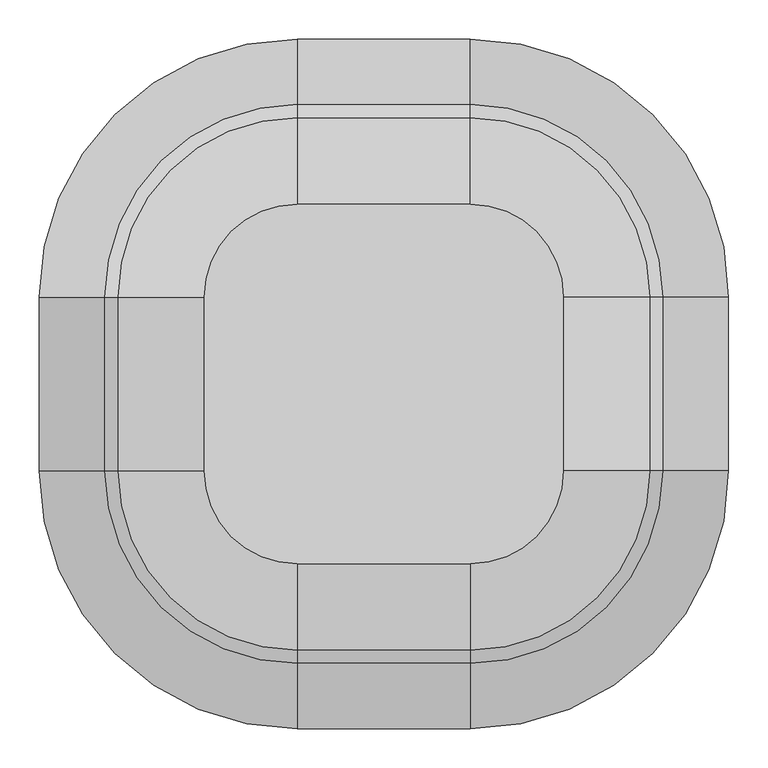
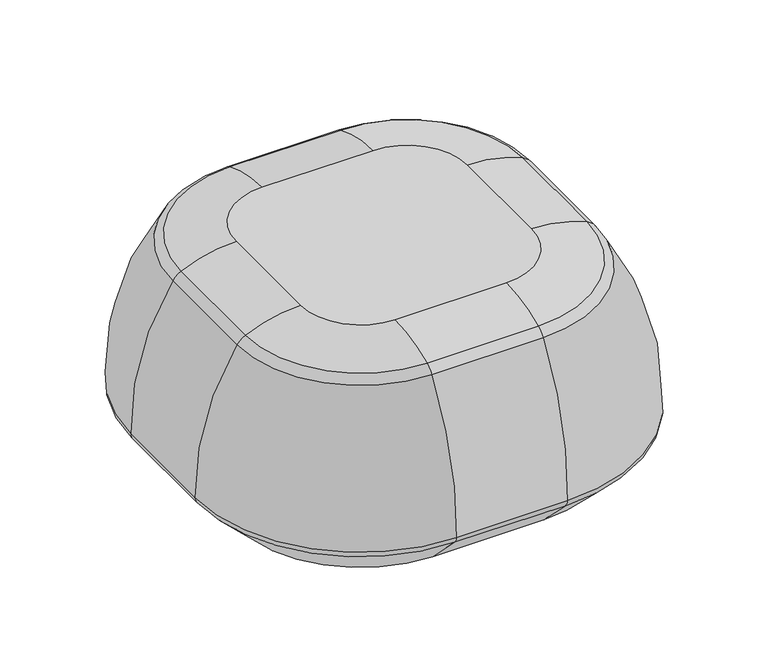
"""IFC4 building model written with IfcOpenShell, lengths in millimetres: furniture geometry, Pouf_Bensen_IlePouf_ILE002 : Pouf_Bensen_IlePouf_ILE002."""

from ifc_helpers import new_model, si_unit, point, frame, origin, place, context, project, spatial, polyline, circle_curve, ellipse_curve, trimmed, source, transform, mapped, element, save
from ifc_brep_helpers import plane_surface, cylinder_surface, revolved_surface, advanced_brep


def furniture_69604ef7(model_context):
    return source(origin(), model_context, "Body", "AdvancedBrep", [
        advanced_brep(
        [(-110.8980061, 229.8805898, 420.0), (-229.6492333, 111.1293625, 420.0), (-229.6492333, -111.1293625, 420.0), (-110.8980061, -229.8805898, 420.0), (110.8980061, -229.8805898, 420.0), (229.6492333, -111.1293625, 420.0), (229.6492333, 111.1293625, 420.0), (110.8980061, 229.8805898, 420.0), (-359.5151302, 111.1293625, 0.0), (-110.8980061, 359.7464867, 0.0), (110.8980061, 359.7464867, 0.0), (359.5151302, 111.1293625, 0.0), (359.5151302, -111.1293625, 0.0), (110.8980061, -359.7464867, 0.0), (-110.8980061, -359.7464867, 0.0), (-359.5151302, -111.1293625, 0.0), (-435.0511768, 111.1293625, 75.5360466), (-110.8980061, 435.2825333, 75.5360466), (-440.8980061, 111.1293625, 89.0138906), (-110.8980061, 441.1293625, 89.0138906), (-357.2647005, 111.1293625, 381.8574548), (-110.8980061, 357.4960569, 381.8574548), (-340.5275017, 111.1293625, 396.0506005), (-110.8980061, 340.7588582, 396.0506005), (-435.0511768, -111.1293625, 75.5360466), (-440.8980061, -111.1293625, 89.0138906), (-357.2647005, -111.1293625, 381.8574548), (-340.5275017, -111.1293625, 396.0506005), (-110.8980061, -435.2825333, 75.5360466), (-110.8980061, -441.1293625, 89.0138906), (-110.8980061, -357.4960569, 381.8574548), (-110.8980061, -340.7588582, 396.0506005), (110.8980061, -435.2825333, 75.5360466), (110.8980061, -441.1293625, 89.0138906), (110.8980061, -357.4960569, 381.8574548), (110.8980061, -340.7588582, 396.0506005), (435.0511768, -111.1293625, 75.5360466), (440.8980061, -111.1293625, 89.0138906), (357.2647005, -111.1293625, 381.8574548), (340.5275017, -111.1293625, 396.0506005), (435.0511768, 111.1293625, 75.5360466), (440.8980061, 111.1293625, 89.0138906), (357.2647005, 111.1293625, 381.8574548), (340.5275017, 111.1293625, 396.0506005), (110.8980061, 435.2825333, 75.5360466), (110.8980061, 441.1293625, 89.0138906), (110.8980061, 357.4960569, 381.8574548), (110.8980061, 340.7588582, 396.0506005)],
        [
            (0, 1, circle_curve(frame((-110.8980061, 111.1293625, 420.0), z_axis=(0.0, 0.0, 1.0), x_axis=(0.0, 1.0, 0.0)), 118.7512273)),
            (1, 2),
            (2, 3, circle_curve(frame((-110.8980061, -111.1293625, 420.0), z_axis=(0.0, 0.0, 1.0), x_axis=(-1.0, 0.0, 0.0)), 118.7512273)),
            (3, 4),
            (4, 5, circle_curve(frame((110.8980061, -111.1293625, 420.0), z_axis=(0.0, 0.0, 1.0), x_axis=(0.0, -1.0, 0.0)), 118.7512273)),
            (5, 6),
            (6, 7, circle_curve(frame((110.8980061, 111.1293625, 420.0), z_axis=(0.0, 0.0, 1.0), x_axis=(1.0, 0.0, 0.0)), 118.7512273)),
            (7, 0),
            (8, 9, circle_curve(frame((-110.8980061, 111.1293625, 0.0), z_axis=(0.0, 0.0, -1.0), x_axis=(0.0, 1.0, 0.0)), 248.6171241)),
            (9, 10),
            (10, 11, circle_curve(frame((110.8980061, 111.1293625, 0.0), z_axis=(0.0, 0.0, -1.0), x_axis=(1.0, 0.0, 0.0)), 248.6171241)),
            (11, 12),
            (12, 13, circle_curve(frame((110.8980061, -111.1293625, 0.0), z_axis=(0.0, 0.0, -1.0), x_axis=(0.0, -1.0, 0.0)), 248.6171241)),
            (13, 14),
            (14, 15, circle_curve(frame((-110.8980061, -111.1293625, 0.0), z_axis=(0.0, 0.0, -1.0), x_axis=(-1.0, 0.0, 0.0)), 248.6171241)),
            (15, 8),
            (16, 17, circle_curve(frame((-110.8980061, 111.1293625, 75.5360466), z_axis=(0.0, 0.0, -1.0), x_axis=(0.0, 1.0, 0.0)), 324.1531708)),
            (17, 9),
            (8, 16),
            (16, 18, circle_curve(frame((-420.9090412, 111.1293625, 89.6781823), z_axis=(0.0, 1.0, 0.0), x_axis=(1.0, 0.0, 0.0)), 20.0)),
            (18, 19, circle_curve(frame((-110.8980061, 111.1293625, 89.0138906), z_axis=(0.0, 0.0, -1.0), x_axis=(0.0, 1.0, 0.0)), 330.0)),
            (19, 17, circle_curve(frame((-110.8980061, 421.1403977, 89.6781823), z_axis=(-1.0, 0.0, 0.0), x_axis=(0.0, -1.0, 0.0)), 20.0)),
            (18, 20, circle_curve(frame((55.8166813, 111.1293625, 105.5211689), z_axis=(0.0, 1.0, 0.0), x_axis=(1.0, 0.0, 0.0)), 496.9889042)),
            (20, 21, circle_curve(frame((-110.8980061, 111.1293625, 381.8574548), z_axis=(0.0, 0.0, -1.0), x_axis=(0.0, 1.0, 0.0)), 246.3666944)),
            (21, 19, circle_curve(frame((-110.8980061, -55.5853248, 105.5211689), z_axis=(-1.0, 0.0, 0.0), x_axis=(0.0, -1.0, 0.0)), 496.9889042)),
            (20, 22, circle_curve(frame((-324.0179717, 111.1293625, 359.6166134), z_axis=(0.0, 1.0, 0.0), x_axis=(1.0, 0.0, 0.0)), 40.0)),
            (22, 23, circle_curve(frame((-110.8980061, 111.1293625, 396.0506005), z_axis=(0.0, 0.0, -1.0), x_axis=(0.0, 1.0, 0.0)), 229.6294956)),
            (23, 21, circle_curve(frame((-110.8980061, 324.2493282, 359.6166134), z_axis=(-1.0, 0.0, 0.0), x_axis=(0.0, -1.0, 0.0)), 40.0)),
            (22, 1, circle_curve(frame((-229.6492333, 111.1293625, 151.3593575), z_axis=(0.0, 1.0, 0.0), x_axis=(1.0, 0.0, 0.0)), 268.6406425)),
            (0, 23, circle_curve(frame((-110.8980061, 229.8805898, 151.3593575), z_axis=(-1.0, 0.0, 0.0), x_axis=(0.0, -1.0, 0.0)), 268.6406425)),
            (15, 24),
            (24, 16),
            (24, 25, circle_curve(frame((-420.9090412, -111.1293625, 89.6781823), z_axis=(0.0, 1.0, 0.0), x_axis=(1.0, 0.0, 0.0)), 20.0)),
            (25, 18),
            (25, 26, circle_curve(frame((55.8166813, -111.1293625, 105.5211689), z_axis=(0.0, 1.0, 0.0), x_axis=(1.0, 0.0, 0.0)), 496.9889042)),
            (26, 20),
            (26, 27, circle_curve(frame((-324.0179717, -111.1293625, 359.6166134), z_axis=(0.0, 1.0, 0.0), x_axis=(1.0, 0.0, 0.0)), 40.0)),
            (27, 22),
            (27, 2, circle_curve(frame((-229.6492333, -111.1293625, 151.3593575), z_axis=(0.0, 1.0, 0.0), x_axis=(1.0, 0.0, 0.0)), 268.6406425)),
            (14, 28),
            (28, 24, circle_curve(frame((-110.8980061, -111.1293625, 75.5360466), z_axis=(0.0, 0.0, -1.0), x_axis=(-1.0, 0.0, 0.0)), 324.1531708)),
            (28, 29, circle_curve(frame((-110.8980061, -421.1403977, 89.6781823), z_axis=(-1.0, 0.0, 0.0), x_axis=(0.0, 1.0, 0.0)), 20.0)),
            (29, 25, circle_curve(frame((-110.8980061, -111.1293625, 89.0138906), z_axis=(0.0, 0.0, -1.0), x_axis=(-1.0, 0.0, 0.0)), 330.0)),
            (29, 30, circle_curve(frame((-110.8980061, 55.5853248, 105.5211689), z_axis=(-1.0, 0.0, 0.0), x_axis=(0.0, 1.0, 0.0)), 496.9889042)),
            (30, 26, circle_curve(frame((-110.8980061, -111.1293625, 381.8574548), z_axis=(0.0, 0.0, -1.0), x_axis=(-1.0, 0.0, 0.0)), 246.3666944)),
            (30, 31, circle_curve(frame((-110.8980061, -324.2493282, 359.6166134), z_axis=(-1.0, 0.0, 0.0), x_axis=(0.0, 1.0, 0.0)), 40.0)),
            (31, 27, circle_curve(frame((-110.8980061, -111.1293625, 396.0506005), z_axis=(0.0, 0.0, -1.0), x_axis=(-1.0, 0.0, 0.0)), 229.6294956)),
            (31, 3, circle_curve(frame((-110.8980061, -229.8805898, 151.3593575), z_axis=(-1.0, 0.0, 0.0), x_axis=(0.0, 1.0, 0.0)), 268.6406425)),
            (13, 32),
            (32, 28),
            (32, 33, circle_curve(frame((110.8980061, -421.1403977, 89.6781823), z_axis=(-1.0, 0.0, 0.0), x_axis=(0.0, 1.0, 0.0)), 20.0)),
            (33, 29),
            (33, 34, circle_curve(frame((110.8980061, 55.5853248, 105.5211689), z_axis=(-1.0, 0.0, 0.0), x_axis=(0.0, 1.0, 0.0)), 496.9889042)),
            (34, 30),
            (34, 35, circle_curve(frame((110.8980061, -324.2493282, 359.6166134), z_axis=(-1.0, 0.0, 0.0), x_axis=(0.0, 1.0, 0.0)), 40.0)),
            (35, 31),
            (35, 4, circle_curve(frame((110.8980061, -229.8805898, 151.3593575), z_axis=(-1.0, 0.0, 0.0), x_axis=(0.0, 1.0, 0.0)), 268.6406425)),
            (12, 36),
            (36, 32, circle_curve(frame((110.8980061, -111.1293625, 75.5360466), z_axis=(0.0, 0.0, -1.0), x_axis=(0.0, -1.0, 0.0)), 324.1531708)),
            (36, 37, circle_curve(frame((420.9090412, -111.1293625, 89.6781823), z_axis=(0.0, -1.0, 0.0), x_axis=(-1.0, 0.0, 0.0)), 20.0)),
            (37, 33, circle_curve(frame((110.8980061, -111.1293625, 89.0138906), z_axis=(0.0, 0.0, -1.0), x_axis=(0.0, -1.0, 0.0)), 330.0)),
            (37, 38, circle_curve(frame((-55.8166813, -111.1293625, 105.5211689), z_axis=(0.0, -1.0, 0.0), x_axis=(-1.0, 0.0, 0.0)), 496.9889042)),
            (38, 34, circle_curve(frame((110.8980061, -111.1293625, 381.8574548), z_axis=(0.0, 0.0, -1.0), x_axis=(0.0, -1.0, 0.0)), 246.3666944)),
            (38, 39, circle_curve(frame((324.0179717, -111.1293625, 359.6166134), z_axis=(0.0, -1.0, 0.0), x_axis=(-1.0, 0.0, 0.0)), 40.0)),
            (39, 35, circle_curve(frame((110.8980061, -111.1293625, 396.0506005), z_axis=(0.0, 0.0, -1.0), x_axis=(0.0, -1.0, 0.0)), 229.6294956)),
            (39, 5, circle_curve(frame((229.6492333, -111.1293625, 151.3593575), z_axis=(0.0, -1.0, 0.0), x_axis=(-1.0, 0.0, 0.0)), 268.6406425)),
            (11, 40),
            (40, 36),
            (40, 41, circle_curve(frame((420.9090412, 111.1293625, 89.6781823), z_axis=(0.0, -1.0, 0.0), x_axis=(-1.0, 0.0, 0.0)), 20.0)),
            (41, 37),
            (41, 42, circle_curve(frame((-55.8166813, 111.1293625, 105.5211689), z_axis=(0.0, -1.0, 0.0), x_axis=(-1.0, 0.0, 0.0)), 496.9889042)),
            (42, 38),
            (42, 43, circle_curve(frame((324.0179717, 111.1293625, 359.6166134), z_axis=(0.0, -1.0, 0.0), x_axis=(-1.0, 0.0, 0.0)), 40.0)),
            (43, 39),
            (43, 6, circle_curve(frame((229.6492333, 111.1293625, 151.3593575), z_axis=(0.0, -1.0, 0.0), x_axis=(-1.0, 0.0, 0.0)), 268.6406425)),
            (10, 44),
            (44, 40, circle_curve(frame((110.8980061, 111.1293625, 75.5360466), z_axis=(0.0, 0.0, -1.0), x_axis=(1.0, 0.0, 0.0)), 324.1531708)),
            (44, 45, circle_curve(frame((110.8980061, 421.1403977, 89.6781823), z_axis=(1.0, 0.0, 0.0), x_axis=(0.0, -1.0, 0.0)), 20.0)),
            (45, 41, circle_curve(frame((110.8980061, 111.1293625, 89.0138906), z_axis=(0.0, 0.0, -1.0), x_axis=(1.0, 0.0, 0.0)), 330.0)),
            (45, 46, circle_curve(frame((110.8980061, -55.5853248, 105.5211689), z_axis=(1.0, 0.0, 0.0), x_axis=(0.0, -1.0, 0.0)), 496.9889042)),
            (46, 42, circle_curve(frame((110.8980061, 111.1293625, 381.8574548), z_axis=(0.0, 0.0, -1.0), x_axis=(1.0, 0.0, 0.0)), 246.3666944)),
            (46, 47, circle_curve(frame((110.8980061, 324.2493282, 359.6166134), z_axis=(1.0, 0.0, 0.0), x_axis=(0.0, -1.0, 0.0)), 40.0)),
            (47, 43, circle_curve(frame((110.8980061, 111.1293625, 396.0506005), z_axis=(0.0, 0.0, -1.0), x_axis=(1.0, 0.0, 0.0)), 229.6294956)),
            (47, 7, circle_curve(frame((110.8980061, 229.8805898, 151.3593575), z_axis=(1.0, 0.0, 0.0), x_axis=(0.0, -1.0, 0.0)), 268.6406425)),
            (17, 44),
            (19, 45),
            (21, 46),
            (23, 47),
        ],
        [
            plane_surface(frame((-110.8980061, 229.8805898, 420.0), z_axis=(0.0, 0.0, 1.0), x_axis=(-1.0, 0.0, 0.0))),
            plane_surface(frame((-110.8980061, 229.8805898, 0.0), z_axis=(0.0, 0.0, -1.0), x_axis=(1.0, 0.0, 0.0))),
            revolved_surface(polyline([(-110.8980061, 359.7464867, 0.0), (-110.8980061, 435.2825333, 75.5360466)]), (-110.8980061, 111.1293625, 0.0), (0.0, 0.0, 1.0)),
            revolved_surface(trimmed(ellipse_curve(frame((-110.8980061, 421.1403977, 89.6781823), z_axis=(1.0, 0.0, 0.0), x_axis=(0.0, -1.0, 0.0)), 20.0, 20.0), [point((-110.8980061, 435.2825333, 75.5360466))], [point((-110.8980061, 441.1293625, 89.0138906))], True, "CARTESIAN"), (-110.8980061, 111.1293625, 0.0), (0.0, 0.0, 1.0)),
            revolved_surface(trimmed(ellipse_curve(frame((-110.8980061, -55.5853248, 105.5211689), z_axis=(1.0, 0.0, 0.0), x_axis=(0.0, -1.0, 0.0)), 496.9889042, 496.9889042), [point((-110.8980061, 441.1293625, 89.0138906))], [point((-110.8980061, 357.4960569, 381.8574548))], True, "CARTESIAN"), (-110.8980061, 111.1293625, 0.0), (0.0, 0.0, 1.0)),
            revolved_surface(trimmed(ellipse_curve(frame((-110.8980061, 324.2493282, 359.6166134), z_axis=(1.0, 0.0, 0.0), x_axis=(0.0, -1.0, 0.0)), 40.0, 40.0), [point((-110.8980061, 357.4960569, 381.8574548))], [point((-110.8980061, 340.7588582, 396.0506005))], True, "CARTESIAN"), (-110.8980061, 111.1293625, 0.0), (0.0, 0.0, 1.0)),
            revolved_surface(trimmed(ellipse_curve(frame((-110.8980061, 229.8805898, 151.3593575), z_axis=(1.0, 0.0, 0.0), x_axis=(0.0, -1.0, 0.0)), 268.6406425, 268.6406425), [point((-110.8980061, 340.7588582, 396.0506005))], [point((-110.8980061, 229.8805898, 420.0))], True, "CARTESIAN"), (-110.8980061, 111.1293625, 0.0), (0.0, 0.0, 1.0)),
            plane_surface(frame((-359.5151302, 111.1293625, 0.0), z_axis=(-0.7071067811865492, 0.0, -0.7071067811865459), x_axis=(0.0, -1.0, 0.0))),
            cylinder_surface(frame((-420.9090412, 111.1293625, 89.6781823), z_axis=(0.0, 1.0, 0.0), x_axis=(1.0, 0.0, 0.0)), 20.0),
            cylinder_surface(frame((55.8166813, 111.1293625, 105.5211689), z_axis=(0.0, 1.0, 0.0), x_axis=(1.0, 0.0, 0.0)), 496.9889042),
            cylinder_surface(frame((-324.0179717, 111.1293625, 359.6166134), z_axis=(0.0, 1.0, 0.0), x_axis=(1.0, 0.0, 0.0)), 40.0),
            cylinder_surface(frame((-229.6492333, 111.1293625, 151.3593575), z_axis=(0.0, 1.0, 0.0), x_axis=(1.0, 0.0, 0.0)), 268.6406425),
            revolved_surface(polyline([(-359.5151302, -111.1293625, 0.0), (-435.0511768, -111.1293625, 75.5360466)]), (-110.8980061, -111.1293625, 0.0), (0.0, 0.0, 1.0)),
            revolved_surface(trimmed(ellipse_curve(frame((-420.9090412, -111.1293625, 89.6781823), z_axis=(0.0, 1.0, 0.0), x_axis=(1.0, 0.0, 0.0)), 20.0, 20.0), [point((-435.0511768, -111.1293625, 75.5360466))], [point((-440.8980061, -111.1293625, 89.0138906))], True, "CARTESIAN"), (-110.8980061, -111.1293625, 0.0), (0.0, 0.0, 1.0)),
            revolved_surface(trimmed(ellipse_curve(frame((55.8166813, -111.1293625, 105.5211689), z_axis=(0.0, 1.0, 0.0), x_axis=(1.0, 0.0, 0.0)), 496.9889042, 496.9889042), [point((-440.8980061, -111.1293625, 89.0138906))], [point((-357.2647005, -111.1293625, 381.8574548))], True, "CARTESIAN"), (-110.8980061, -111.1293625, 0.0), (0.0, 0.0, 1.0)),
            revolved_surface(trimmed(ellipse_curve(frame((-324.0179717, -111.1293625, 359.6166134), z_axis=(0.0, 1.0, 0.0), x_axis=(1.0, 0.0, 0.0)), 40.0, 40.0), [point((-357.2647005, -111.1293625, 381.8574548))], [point((-340.5275017, -111.1293625, 396.0506005))], True, "CARTESIAN"), (-110.8980061, -111.1293625, 0.0), (0.0, 0.0, 1.0)),
            revolved_surface(trimmed(ellipse_curve(frame((-229.6492333, -111.1293625, 151.3593575), z_axis=(0.0, 1.0, 0.0), x_axis=(1.0, 0.0, 0.0)), 268.6406425, 268.6406425), [point((-340.5275017, -111.1293625, 396.0506005))], [point((-229.6492333, -111.1293625, 420.0))], True, "CARTESIAN"), (-110.8980061, -111.1293625, 0.0), (0.0, 0.0, 1.0)),
            plane_surface(frame((-110.8980061, -359.7464867, 0.0), z_axis=(0.0, -0.7071067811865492, -0.7071067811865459), x_axis=(1.0, 0.0, 0.0))),
            cylinder_surface(frame((-110.8980061, -421.1403977, 89.6781823), z_axis=(-1.0, 0.0, 0.0), x_axis=(0.0, 1.0, 0.0)), 20.0),
            cylinder_surface(frame((-110.8980061, 55.5853248, 105.5211689), z_axis=(-1.0, 0.0, 0.0), x_axis=(0.0, 1.0, 0.0)), 496.9889042),
            cylinder_surface(frame((-110.8980061, -324.2493282, 359.6166134), z_axis=(-1.0, 0.0, 0.0), x_axis=(0.0, 1.0, 0.0)), 40.0),
            cylinder_surface(frame((-110.8980061, -229.8805898, 151.3593575), z_axis=(-1.0, 0.0, 0.0), x_axis=(0.0, 1.0, 0.0)), 268.6406425),
            revolved_surface(polyline([(110.8980061, -359.7464867, 0.0), (110.8980061, -435.2825333, 75.5360466)]), (110.8980061, -111.1293625, 0.0), (0.0, 0.0, 1.0)),
            revolved_surface(trimmed(ellipse_curve(frame((110.8980061, -421.1403977, 89.6781823), z_axis=(-1.0, 0.0, 0.0), x_axis=(0.0, 1.0, 0.0)), 20.0, 20.0), [point((110.8980061, -435.2825333, 75.5360466))], [point((110.8980061, -441.1293625, 89.0138906))], True, "CARTESIAN"), (110.8980061, -111.1293625, 0.0), (0.0, 0.0, 1.0)),
            revolved_surface(trimmed(ellipse_curve(frame((110.8980061, 55.5853248, 105.5211689), z_axis=(-1.0, 0.0, 0.0), x_axis=(0.0, 1.0, 0.0)), 496.9889042, 496.9889042), [point((110.8980061, -441.1293625, 89.0138906))], [point((110.8980061, -357.4960569, 381.8574548))], True, "CARTESIAN"), (110.8980061, -111.1293625, 0.0), (0.0, 0.0, 1.0)),
            revolved_surface(trimmed(ellipse_curve(frame((110.8980061, -324.2493282, 359.6166134), z_axis=(-1.0, 0.0, 0.0), x_axis=(0.0, 1.0, 0.0)), 40.0, 40.0), [point((110.8980061, -357.4960569, 381.8574548))], [point((110.8980061, -340.7588582, 396.0506005))], True, "CARTESIAN"), (110.8980061, -111.1293625, 0.0), (0.0, 0.0, 1.0)),
            revolved_surface(trimmed(ellipse_curve(frame((110.8980061, -229.8805898, 151.3593575), z_axis=(-1.0, 0.0, 0.0), x_axis=(0.0, 1.0, 0.0)), 268.6406425, 268.6406425), [point((110.8980061, -340.7588582, 396.0506005))], [point((110.8980061, -229.8805898, 420.0))], True, "CARTESIAN"), (110.8980061, -111.1293625, 0.0), (0.0, 0.0, 1.0)),
            plane_surface(frame((359.5151302, -111.1293625, 0.0), z_axis=(0.7071067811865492, 0.0, -0.7071067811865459), x_axis=(0.0, 1.0, 0.0))),
            cylinder_surface(frame((420.9090412, -111.1293625, 89.6781823), z_axis=(0.0, -1.0, 0.0), x_axis=(-1.0, 0.0, 0.0)), 20.0),
            cylinder_surface(frame((-55.8166813, -111.1293625, 105.5211689), z_axis=(0.0, -1.0, 0.0), x_axis=(-1.0, 0.0, 0.0)), 496.9889042),
            cylinder_surface(frame((324.0179717, -111.1293625, 359.6166134), z_axis=(0.0, -1.0, 0.0), x_axis=(-1.0, 0.0, 0.0)), 40.0),
            cylinder_surface(frame((229.6492333, -111.1293625, 151.3593575), z_axis=(0.0, -1.0, 0.0), x_axis=(-1.0, 0.0, 0.0)), 268.6406425),
            revolved_surface(polyline([(359.5151302, 111.1293625, 0.0), (435.0511768, 111.1293625, 75.5360466)]), (110.8980061, 111.1293625, 0.0), (0.0, 0.0, 1.0)),
            revolved_surface(trimmed(ellipse_curve(frame((420.9090412, 111.1293625, 89.6781823), z_axis=(0.0, -1.0, 0.0), x_axis=(-1.0, 0.0, 0.0)), 20.0, 20.0), [point((435.0511768, 111.1293625, 75.5360466))], [point((440.8980061, 111.1293625, 89.0138906))], True, "CARTESIAN"), (110.8980061, 111.1293625, 0.0), (0.0, 0.0, 1.0)),
            revolved_surface(trimmed(ellipse_curve(frame((-55.8166813, 111.1293625, 105.5211689), z_axis=(0.0, -1.0, 0.0), x_axis=(-1.0, 0.0, 0.0)), 496.9889042, 496.9889042), [point((440.8980061, 111.1293625, 89.0138906))], [point((357.2647005, 111.1293625, 381.8574548))], True, "CARTESIAN"), (110.8980061, 111.1293625, 0.0), (0.0, 0.0, 1.0)),
            revolved_surface(trimmed(ellipse_curve(frame((324.0179717, 111.1293625, 359.6166134), z_axis=(0.0, -1.0, 0.0), x_axis=(-1.0, 0.0, 0.0)), 40.0, 40.0), [point((357.2647005, 111.1293625, 381.8574548))], [point((340.5275017, 111.1293625, 396.0506005))], True, "CARTESIAN"), (110.8980061, 111.1293625, 0.0), (0.0, 0.0, 1.0)),
            revolved_surface(trimmed(ellipse_curve(frame((229.6492333, 111.1293625, 151.3593575), z_axis=(0.0, -1.0, 0.0), x_axis=(-1.0, 0.0, 0.0)), 268.6406425, 268.6406425), [point((340.5275017, 111.1293625, 396.0506005))], [point((229.6492333, 111.1293625, 420.0))], True, "CARTESIAN"), (110.8980061, 111.1293625, 0.0), (0.0, 0.0, 1.0)),
            plane_surface(frame((110.8980061, 359.7464867, 0.0), z_axis=(0.0, 0.7071067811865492, -0.7071067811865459), x_axis=(-1.0, 0.0, 0.0))),
            cylinder_surface(frame((110.8980061, 421.1403977, 89.6781823), z_axis=(1.0, 0.0, 0.0), x_axis=(0.0, -1.0, 0.0)), 20.0),
            cylinder_surface(frame((110.8980061, -55.5853248, 105.5211689), z_axis=(1.0, 0.0, 0.0), x_axis=(0.0, -1.0, 0.0)), 496.9889042),
            cylinder_surface(frame((110.8980061, 324.2493282, 359.6166134), z_axis=(1.0, 0.0, 0.0), x_axis=(0.0, -1.0, 0.0)), 40.0),
            cylinder_surface(frame((110.8980061, 229.8805898, 151.3593575), z_axis=(1.0, 0.0, 0.0), x_axis=(0.0, -1.0, 0.0)), 268.6406425),
        ],
        [
            (0, [[1, 2, 3, 4, 5, 6, 7, 8]]),
            (1, [[9, 10, 11, 12, 13, 14, 15, 16]]),
            (2, [[17, 18, -9, 19]]),
            (3, [[-17, 20, 21, 22]]),
            (4, [[-21, 23, 24, 25]]),
            (5, [[-24, 26, 27, 28]]),
            (6, [[-27, 29, -1, 30]]),
            (7, [[-19, -16, 31, 32]]),
            (8, [[-20, -32, 33, 34]]),
            (9, [[-23, -34, 35, 36]]),
            (10, [[-26, -36, 37, 38]]),
            (11, [[-29, -38, 39, -2]]),
            (12, [[-31, -15, 40, 41]]),
            (13, [[-33, -41, 42, 43]]),
            (14, [[-35, -43, 44, 45]]),
            (15, [[-37, -45, 46, 47]]),
            (16, [[-39, -47, 48, -3]]),
            (17, [[-40, -14, 49, 50]]),
            (18, [[-42, -50, 51, 52]]),
            (19, [[-44, -52, 53, 54]]),
            (20, [[-46, -54, 55, 56]]),
            (21, [[-48, -56, 57, -4]]),
            (22, [[-49, -13, 58, 59]]),
            (23, [[-51, -59, 60, 61]]),
            (24, [[-53, -61, 62, 63]]),
            (25, [[-55, -63, 64, 65]]),
            (26, [[-57, -65, 66, -5]]),
            (27, [[-58, -12, 67, 68]]),
            (28, [[-60, -68, 69, 70]]),
            (29, [[-62, -70, 71, 72]]),
            (30, [[-64, -72, 73, 74]]),
            (31, [[-66, -74, 75, -6]]),
            (32, [[-67, -11, 76, 77]]),
            (33, [[-69, -77, 78, 79]]),
            (34, [[-71, -79, 80, 81]]),
            (35, [[-73, -81, 82, 83]]),
            (36, [[-75, -83, 84, -7]]),
            (37, [[-18, 85, -76, -10]]),
            (38, [[-22, 86, -78, -85]]),
            (39, [[-25, 87, -80, -86]]),
            (40, [[-28, 88, -82, -87]]),
            (41, [[-30, -8, -84, -88]]),
        ],
    ),
    ])


if __name__ == "__main__":
    model = new_model("IFC4")
    model_context = context("Model", 3, world=origin())
    ifc_project = project(units=[si_unit("LENGTHUNIT", "METRE", prefix="MILLI")], contexts=[model_context])
    site = spatial("IfcSite", under=ifc_project)
    building = spatial("IfcBuilding", under=site)
    placement = place(None, origin())
    furniture_shape = furniture_69604ef7(model_context)
    element("IfcFurniture", 1, ObjectType="Pouf_Bensen_IlePouf_ILE002 : Pouf_Bensen_IlePouf_ILE002", at=placement, inside=building, context=model_context, shape_type="MappedRepresentation", body=[
        mapped(furniture_shape, transform((0.0, 0.0, 0.0), x_axis=(1.0, 0.0, 0.0), y_axis=(0.0, 1.0, 0.0), z_axis=(0.0, 0.0, 1.0))),
    ])
    save(model, "model.ifc")
